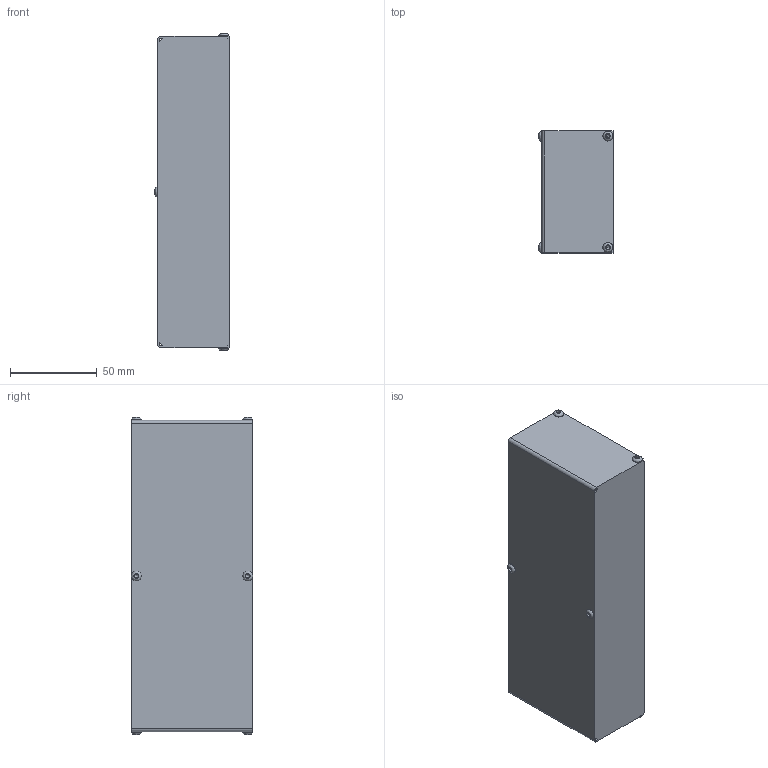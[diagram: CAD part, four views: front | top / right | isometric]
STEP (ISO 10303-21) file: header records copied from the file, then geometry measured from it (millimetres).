
FILE_DESCRIPTION(/* description */ (''),/* implementation_level */ '2;1');
FILE_NAME(/* name */ 'X:\VIRI ZA WEB\CAD DATOTEKE\LINEARNE ENOTE UNIMOTION\DODATNA OPREMA ZA LINEARNE ENOTE\STRANSKI POGONI\CTV-MTV\CTV 110-MTV 65\MSD CTV 110 T1 1 60 X 60\izvoz\CAD_71377.stp',/* time_stamp */ '2016-06-06T08:56:13+02:00',/* author */ ('Hypex'),/* organization */ ('Hypex'),/* preprocessor_version */ 'ST-DEVELOPER v16.1',/* originating_system */ 'Autodesk Inventor 2016',/* authorisation */ '');
FILE_SCHEMA (('AUTOMOTIVE_DESIGN { 1 0 10303 214 3 1 1 }'));
Length unit declared in the file: millimetre
Products named in the file (1): CAD_71377
Bounding box: 42.65 x 70 x 182.3 mm (x, y, z)
Volume: 498585.2 mm3; surface area: 49523.2 mm2
Topology: 1 solids, 13 shells, 192 faces, 458 edges, 303 vertices
Faces by surface type: plane 111, cylinder 49, cone 20, bspline 6, torus 6
Full cylindrical faces by diameter (mm): 2.459 x6, 3 x6, 4 x6, 5.7 x6, 6.2 x8, 25 x1
Entity records: 5227 total; most frequent: CARTESIAN_POINT 1053, DIRECTION 820, ORIENTED_EDGE 716, EDGE_CURVE 358, AXIS2_PLACEMENT_3D 317, EDGE_LOOP 278, VERTEX_POINT 262, STYLED_ITEM 193
